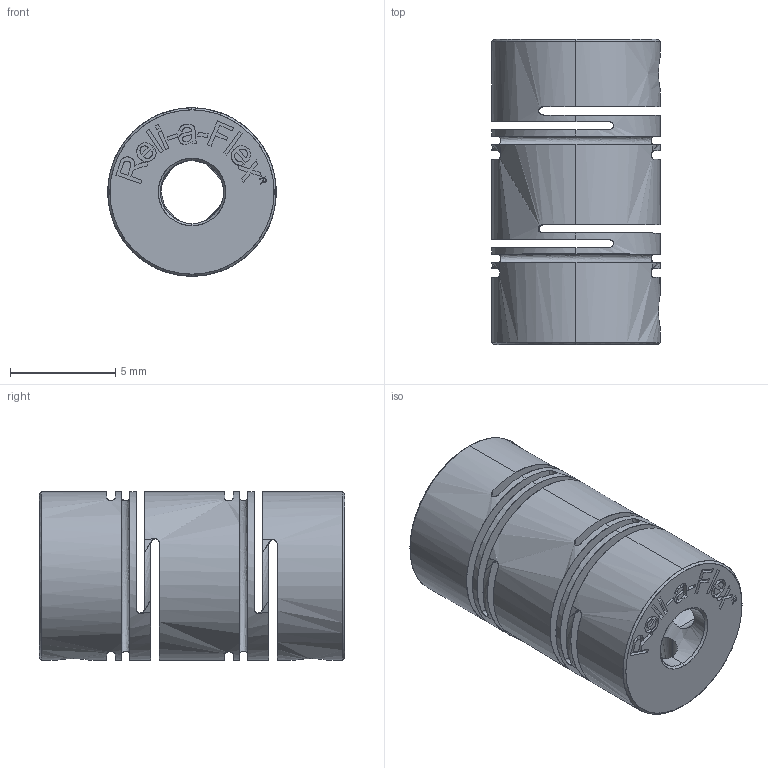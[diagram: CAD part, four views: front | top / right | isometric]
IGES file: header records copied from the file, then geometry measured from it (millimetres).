
Start section: Comment
Global section: file name: RCLA8-3-3.igs; native system:  By UGS Corp.; preprocessor: XPlus GENERIC/IGES 3.0; author: Author; organization: Title; date: 20070323.110436; units: inch
Bounding box: 8 x 14.5 x 8 mm (x, y, z)
Surface area: 1093.1 mm2 (no closed solid volume)
Topology: 0 solids, 0 shells, 204 faces, 1112 edges, 1112 vertices
Faces by surface type: bspline 204
